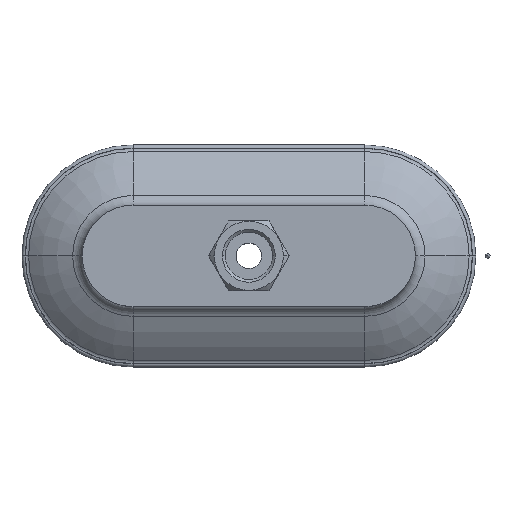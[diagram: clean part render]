
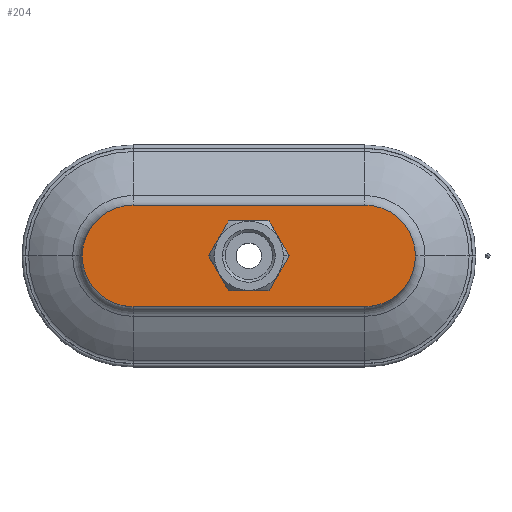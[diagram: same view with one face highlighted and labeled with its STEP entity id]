
A CAD part, top view. The second image highlights one B-rep face of the part: STEP entity #204.
In plain terms, the highlighted planar face has unit normal (0, 0, 1).
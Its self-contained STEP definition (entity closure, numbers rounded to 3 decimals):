
#204=ADVANCED_FACE('',(#456,#457),#458,.T.);
#456=FACE_OUTER_BOUND('',#756,.T.);
#457=FACE_BOUND('',#757,.T.);
#458=PLANE('',#758);
#756=EDGE_LOOP('',(#1263,#1264,#1265,#1266));
#757=EDGE_LOOP('',(#1267,#1268));
#758=AXIS2_PLACEMENT_3D('',#1269,#1270,#1271);
#1263=ORIENTED_EDGE('',*,*,#1864,.F.);
#1264=ORIENTED_EDGE('',*,*,#1865,.F.);
#1265=ORIENTED_EDGE('',*,*,#1866,.F.);
#1266=ORIENTED_EDGE('',*,*,#1867,.F.);
#1267=ORIENTED_EDGE('',*,*,#1786,.T.);
#1268=ORIENTED_EDGE('',*,*,#1859,.T.);
#1269=CARTESIAN_POINT('',(36.5,8.0,19.0));
#1270=DIRECTION('',(0.,0.,1.0));
#1271=DIRECTION('',(1.0,0.,0.0));
#1786=EDGE_CURVE('',#2142,#2146,#2148,.T.);
#1859=EDGE_CURVE('',#2146,#2142,#2247,.T.);
#1864=EDGE_CURVE('',#2252,#2253,#2254,.T.);
#1865=EDGE_CURVE('',#2255,#2252,#2256,.T.);
#1866=EDGE_CURVE('',#2257,#2255,#2258,.T.);
#1867=EDGE_CURVE('',#2253,#2257,#2259,.T.);
#2142=VERTEX_POINT('',#2563);
#2146=VERTEX_POINT('',#2568);
#2148=CIRCLE('',#2571,10.875);
#2247=CIRCLE('',#2798,10.875);
#2252=VERTEX_POINT('',#2803);
#2253=VERTEX_POINT('',#2804);
#2254=CIRCLE('',#2805,16.0);
#2255=VERTEX_POINT('',#2806);
#2256=LINE('',#2807,#2808);
#2257=VERTEX_POINT('',#2809);
#2258=CIRCLE('',#2810,16.0);
#2259=LINE('',#2811,#2812);
#2563=CARTESIAN_POINT('',(10.875,0.0,19.0));
#2568=CARTESIAN_POINT('',(-10.875,0.,19.0));
#2571=AXIS2_PLACEMENT_3D('',#3203,#3204,#3205);
#2798=AXIS2_PLACEMENT_3D('',#3277,#3278,#3279);
#2803=CARTESIAN_POINT('',(36.5,16.0,19.0));
#2804=CARTESIAN_POINT('',(36.5,-16.0,19.0));
#2805=AXIS2_PLACEMENT_3D('',#3283,#3284,#3285);
#2806=CARTESIAN_POINT('',(-36.5,16.0,19.0));
#2807=CARTESIAN_POINT('',(-36.5,16.0,19.0));
#2808=VECTOR('',#3286,1.0);
#2809=CARTESIAN_POINT('',(-36.5,-16.0,19.0));
#2810=AXIS2_PLACEMENT_3D('',#3287,#3288,#3289);
#2811=CARTESIAN_POINT('',(36.5,-16.0,19.0));
#2812=VECTOR('',#3290,1.0);
#3203=CARTESIAN_POINT('',(0.0,0.,19.0));
#3204=DIRECTION('',(0.,0.,-1.0));
#3205=DIRECTION('',(1.0,0.,0.));
#3277=CARTESIAN_POINT('',(0.0,0.,19.0));
#3278=DIRECTION('',(0.,0.,-1.0));
#3279=DIRECTION('',(1.0,0.,0.));
#3283=CARTESIAN_POINT('',(36.5,0.,19.0));
#3284=DIRECTION('',(0.,0.,-1.0));
#3285=DIRECTION('',(0.,1.0,0.0));
#3286=DIRECTION('',(1.0,0.,0.));
#3287=CARTESIAN_POINT('',(-36.5,0.,19.0));
#3288=DIRECTION('',(0.,0.,-1.0));
#3289=DIRECTION('',(0.,-1.0,0.));
#3290=DIRECTION('',(-1.0,0.,0.));
